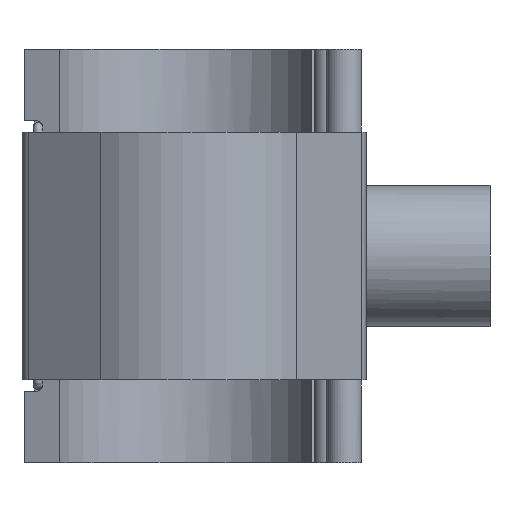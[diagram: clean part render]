
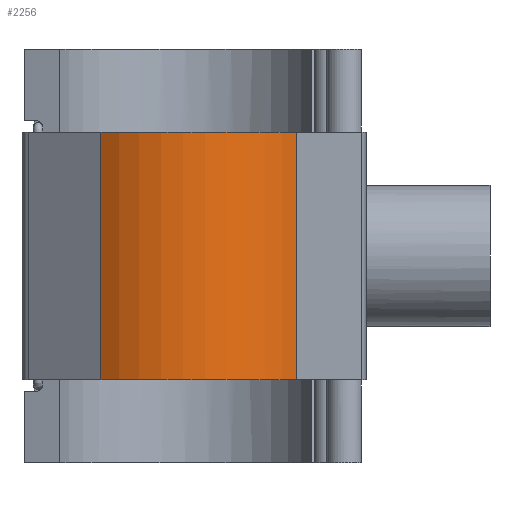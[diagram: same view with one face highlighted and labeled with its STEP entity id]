
A CAD part, front view. The second image highlights one B-rep face of the part: STEP entity #2256.
In plain terms, the highlighted cylindrical face has radius 58.761 mm (diameter 117.523 mm), a partial arc.
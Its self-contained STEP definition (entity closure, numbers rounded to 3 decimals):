
#216=FACE_OUTER_BOUND('',#351,.T.);
#351=EDGE_LOOP('',(#1991,#1992,#1993,#1994));
#447=CIRCLE('',#2420,58.762);
#453=CIRCLE('',#2427,58.762);
#703=LINE('',#4153,#891);
#708=LINE('',#4161,#896);
#891=VECTOR('',#3103,10.);
#896=VECTOR('',#3114,10.);
#1022=VERTEX_POINT('',#3838);
#1023=VERTEX_POINT('',#3840);
#1029=VERTEX_POINT('',#3857);
#1030=VERTEX_POINT('',#3859);
#1275=EDGE_CURVE('',#1022,#1023,#447,.T.);
#1286=EDGE_CURVE('',#1029,#1030,#453,.T.);
#1403=EDGE_CURVE('',#1029,#1023,#703,.T.);
#1408=EDGE_CURVE('',#1022,#1030,#708,.T.);
#1991=ORIENTED_EDGE('',*,*,#1408,.T.);
#1992=ORIENTED_EDGE('',*,*,#1286,.F.);
#1993=ORIENTED_EDGE('',*,*,#1403,.T.);
#1994=ORIENTED_EDGE('',*,*,#1275,.F.);
#2144=CYLINDRICAL_SURFACE('',#2500,58.762);
#2256=ADVANCED_FACE('',(#216),#2144,.T.);
#2420=AXIS2_PLACEMENT_3D('',#3841,#2862,#2863);
#2427=AXIS2_PLACEMENT_3D('',#3860,#2881,#2882);
#2500=AXIS2_PLACEMENT_3D('',#4162,#3115,#3116);
#2862=DIRECTION('center_axis',(0.,0.,-1.));
#2863=DIRECTION('ref_axis',(0.611,0.791,0.));
#2881=DIRECTION('center_axis',(0.,0.,1.));
#2882=DIRECTION('ref_axis',(0.611,0.791,0.));
#3103=DIRECTION('',(0.,0.,-1.));
#3114=DIRECTION('',(0.,0.,1.));
#3115=DIRECTION('center_axis',(0.,0.,1.));
#3116=DIRECTION('ref_axis',(0.611,0.791,0.));
#3838=CARTESIAN_POINT('',(47.364,-34.779,-52.807));
#3840=CARTESIAN_POINT('',(-35.931,-46.496,-52.807));
#3841=CARTESIAN_POINT('Origin',(0.,0.,
-52.807));
#3857=CARTESIAN_POINT('',(-35.931,-46.496,52.807));
#3859=CARTESIAN_POINT('',(47.364,-34.779,52.807));
#3860=CARTESIAN_POINT('Origin',(0.,0.,
52.807));
#4153=CARTESIAN_POINT('',(-35.931,-46.496,0.));
#4161=CARTESIAN_POINT('',(47.364,-34.779,0.));
#4162=CARTESIAN_POINT('Origin',(0.,0.,
0.));
